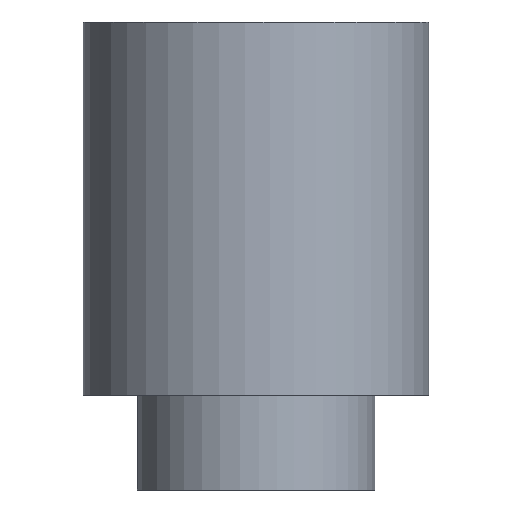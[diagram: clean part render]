
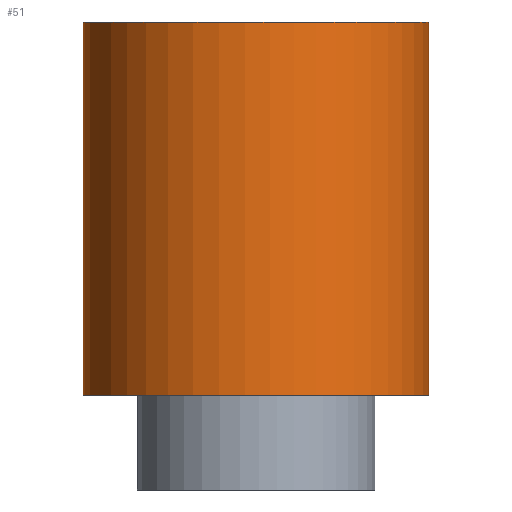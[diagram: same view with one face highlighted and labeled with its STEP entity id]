
A CAD part, front view. The second image highlights one B-rep face of the part: STEP entity #51.
In plain terms, the highlighted free-form (B-spline) face has degree [2, 1] with [7, 2] control points.
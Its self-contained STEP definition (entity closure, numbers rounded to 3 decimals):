
#35 = EDGE_CURVE('',#36,#36,#38,.T.);
#36 = VERTEX_POINT('',#37);
#37 = CARTESIAN_POINT('',(-2.55,0.,5.5));
#38 = ( BOUNDED_CURVE() B_SPLINE_CURVE(2,(#39,#40,#41,#42,#43,#44,#45),
.UNSPECIFIED.,.T.,.F.) B_SPLINE_CURVE_WITH_KNOTS((1,2,2,2,2,1),(
    -2.094,0.,2.094,4.189,6.283,
8.378),.UNSPECIFIED.) CURVE() GEOMETRIC_REPRESENTATION_ITEM() 
RATIONAL_B_SPLINE_CURVE((1.,0.5,1.,0.5,1.,0.5,1.)) REPRESENTATION_ITEM(
  '') );
#39 = CARTESIAN_POINT('',(-2.55,0.,5.5));
#40 = CARTESIAN_POINT('',(-2.55,4.417,5.5));
#41 = CARTESIAN_POINT('',(1.275,2.208,5.5));
#42 = CARTESIAN_POINT('',(5.1,0.,5.5));
#43 = CARTESIAN_POINT('',(1.275,-2.208,5.5));
#44 = CARTESIAN_POINT('',(-2.55,-4.417,5.5));
#45 = CARTESIAN_POINT('',(-2.55,0.,5.5));
#51 = ADVANCED_FACE('',(#52),#73,.T.);
#52 = FACE_BOUND('',#53,.T.);
#53 = EDGE_LOOP('',(#54,#55,#62,#72));
#54 = ORIENTED_EDGE('',*,*,#35,.T.);
#55 = ORIENTED_EDGE('',*,*,#56,.F.);
#56 = EDGE_CURVE('',#57,#36,#59,.T.);
#57 = VERTEX_POINT('',#58);
#58 = CARTESIAN_POINT('',(-2.55,0.,0.));
#59 = B_SPLINE_CURVE_WITH_KNOTS('',1,(#60,#61),.UNSPECIFIED.,.F.,.F.,(2,
    2),(-5.,0.5),.PIECEWISE_BEZIER_KNOTS.);
#60 = CARTESIAN_POINT('',(-2.55,0.,0.));
#61 = CARTESIAN_POINT('',(-2.55,0.,5.5));
#62 = ORIENTED_EDGE('',*,*,#63,.F.);
#63 = EDGE_CURVE('',#57,#57,#64,.T.);
#64 = ( BOUNDED_CURVE() B_SPLINE_CURVE(2,(#65,#66,#67,#68,#69,#70,#71),
.UNSPECIFIED.,.T.,.F.) B_SPLINE_CURVE_WITH_KNOTS((1,2,2,2,2,1),(
    -2.094,0.,2.094,4.189,6.283,
8.378),.UNSPECIFIED.) CURVE() GEOMETRIC_REPRESENTATION_ITEM() 
RATIONAL_B_SPLINE_CURVE((1.,0.5,1.,0.5,1.,0.5,1.)) REPRESENTATION_ITEM(
  '') );
#65 = CARTESIAN_POINT('',(-2.55,0.,0.));
#66 = CARTESIAN_POINT('',(-2.55,4.417,0.));
#67 = CARTESIAN_POINT('',(1.275,2.208,0.));
#68 = CARTESIAN_POINT('',(5.1,0.,0.));
#69 = CARTESIAN_POINT('',(1.275,-2.208,0.));
#70 = CARTESIAN_POINT('',(-2.55,-4.417,0.));
#71 = CARTESIAN_POINT('',(-2.55,0.,0.));
#72 = ORIENTED_EDGE('',*,*,#56,.T.);
#73 = ( BOUNDED_SURFACE() B_SPLINE_SURFACE(2,1,(
    (#74,#75)
    ,(#76,#77)
    ,(#78,#79)
    ,(#80,#81)
    ,(#82,#83)
    ,(#84,#85)
,(#86,#87
    )),.UNSPECIFIED.,.T.,.F.,.F.) B_SPLINE_SURFACE_WITH_KNOTS((1,2,2,2,2
    ,1),(2,2),(-2.094,0.,2.094,4.189,
    6.283,8.378),(-5.,0.5),.UNSPECIFIED.) 
GEOMETRIC_REPRESENTATION_ITEM() RATIONAL_B_SPLINE_SURFACE((
    (1.,1.)
    ,(0.5,0.5)
    ,(1.,1.)
    ,(0.5,0.5)
    ,(1.,1.)
    ,(0.5,0.5)
,(1.,1.))) REPRESENTATION_ITEM('') SURFACE() );
#74 = CARTESIAN_POINT('',(-2.55,0.,0.));
#75 = CARTESIAN_POINT('',(-2.55,0.,5.5));
#76 = CARTESIAN_POINT('',(-2.55,-4.417,0.));
#77 = CARTESIAN_POINT('',(-2.55,-4.417,5.5));
#78 = CARTESIAN_POINT('',(1.275,-2.208,0.));
#79 = CARTESIAN_POINT('',(1.275,-2.208,5.5));
#80 = CARTESIAN_POINT('',(5.1,0.,0.));
#81 = CARTESIAN_POINT('',(5.1,0.,5.5));
#82 = CARTESIAN_POINT('',(1.275,2.208,0.));
#83 = CARTESIAN_POINT('',(1.275,2.208,5.5));
#84 = CARTESIAN_POINT('',(-2.55,4.417,0.));
#85 = CARTESIAN_POINT('',(-2.55,4.417,5.5));
#86 = CARTESIAN_POINT('',(-2.55,0.,0.));
#87 = CARTESIAN_POINT('',(-2.55,0.,5.5));
